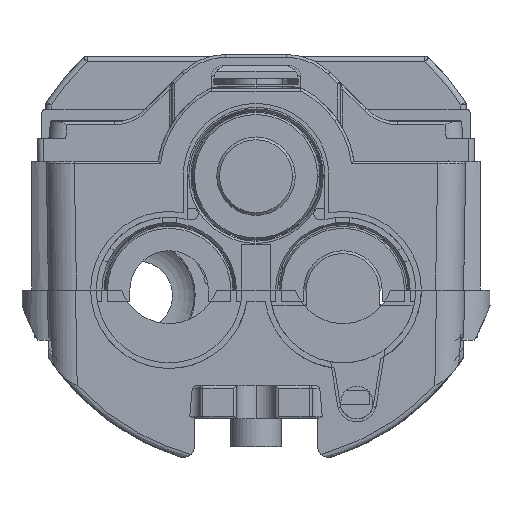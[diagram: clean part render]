
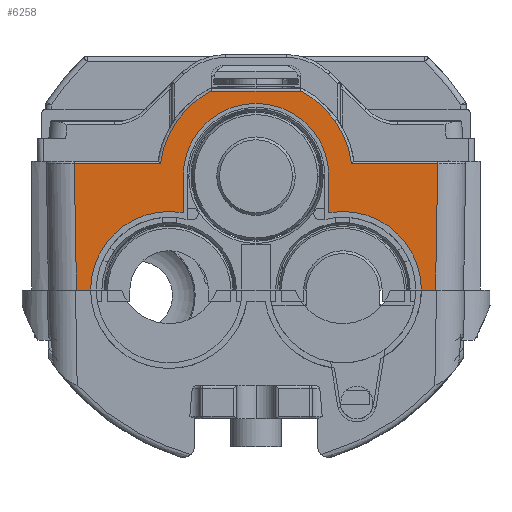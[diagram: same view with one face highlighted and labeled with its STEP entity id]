
A CAD part, left-side view. The second image highlights one B-rep face of the part: STEP entity #6258.
In plain terms, the highlighted planar face has unit normal (-1, 0, 0).
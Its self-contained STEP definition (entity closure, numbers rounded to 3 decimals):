
#220 = DIRECTION ( 'NONE',  ( -1., 0., 0. ) ) ;
#277 = CIRCLE ( 'NONE', #36907, 17.2 ) ;
#313 = CARTESIAN_POINT ( 'NONE',  ( -260., -32.74, 74.782 ) ) ;
#705 = VERTEX_POINT ( 'NONE', #13757 ) ;
#1485 = VECTOR ( 'NONE', #25919, 1000. ) ;
#2039 = VECTOR ( 'NONE', #48078, 1000. ) ;
#2564 = VECTOR ( 'NONE', #20207, 1000. ) ;
#2631 = CARTESIAN_POINT ( 'NONE',  ( -260., -32.028, 34. ) ) ;
#4360 = CARTESIAN_POINT ( 'NONE',  ( -260., 37.029, 56.5 ) ) ;
#5293 = VERTEX_POINT ( 'NONE', #25643 ) ;
#5406 = ORIENTED_EDGE ( 'NONE', *, *, #31305, .F. ) ;
#6106 = ORIENTED_EDGE ( 'NONE', *, *, #39769, .T. ) ;
#6258 = ADVANCED_FACE ( 'NONE', ( #50188 ), #19727, .F. ) ;
#6763 = ORIENTED_EDGE ( 'NONE', *, *, #35207, .F. ) ;
#7414 = ORIENTED_EDGE ( 'NONE', *, *, #35098, .T. ) ;
#7613 = CIRCLE ( 'NONE', #43755, 17.2 ) ;
#8021 = VERTEX_POINT ( 'NONE', #9060 ) ;
#9060 = CARTESIAN_POINT ( 'NONE',  ( -260., 13., 54.3 ) ) ;
#9193 = CIRCLE ( 'NONE', #14599, 14. ) ;
#9865 = CARTESIAN_POINT ( 'NONE',  ( -260., -15.5, 34. ) ) ;
#11016 = CARTESIAN_POINT ( 'NONE',  ( -260., 13., 54.3 ) ) ;
#11717 = CARTESIAN_POINT ( 'NONE',  ( -260., -13., 47.775 ) ) ;
#12398 = CARTESIAN_POINT ( 'NONE',  ( -260., -29.5, 34. ) ) ;
#12929 = LINE ( 'NONE', #4360, #1485 ) ;
#12976 = CARTESIAN_POINT ( 'NONE',  ( -260., 15.5, 34. ) ) ;
#12985 = CARTESIAN_POINT ( 'NONE',  ( -260., 29.5, 34. ) ) ;
#13757 = CARTESIAN_POINT ( 'NONE',  ( -260., 32.028, 34. ) ) ;
#14177 = DIRECTION ( 'NONE',  ( 0., -1., 0. ) ) ;
#14599 = AXIS2_PLACEMENT_3D ( 'NONE', #9865, #40204, #14177 ) ;
#15816 = CARTESIAN_POINT ( 'NONE',  ( -260., 32.762, 76.074 ) ) ;
#15913 = DIRECTION ( 'NONE',  ( 0., 0., -1. ) ) ;
#16040 = CARTESIAN_POINT ( 'NONE',  ( -260., 37.029, 56.5 ) ) ;
#16179 = ORIENTED_EDGE ( 'NONE', *, *, #16225, .T. ) ;
#16225 = EDGE_CURVE ( 'NONE', #52239, #33202, #12929, .T. ) ;
#16236 = ORIENTED_EDGE ( 'NONE', *, *, #42412, .T. ) ;
#16372 = DIRECTION ( 'NONE',  ( -1., 0., 0. ) ) ;
#17340 = DIRECTION ( 'NONE',  ( 0., -1., 0. ) ) ;
#18614 = DIRECTION ( 'NONE',  ( 0., 0., -1. ) ) ;
#18792 = DIRECTION ( 'NONE',  ( 1., 0., 0. ) ) ;
#19521 = CARTESIAN_POINT ( 'NONE',  ( -260., 37.029, 76. ) ) ;
#19548 = VECTOR ( 'NONE', #35954, 1000. ) ;
#19727 = PLANE ( 'NONE',  #49020 ) ;
#20083 = CARTESIAN_POINT ( 'NONE',  ( -260., -8.05, 69.5 ) ) ;
#20159 = CIRCLE ( 'NONE', #30826, 14. ) ;
#20207 = DIRECTION ( 'NONE',  ( 0., -0.017, -1. ) ) ;
#20576 = CARTESIAN_POINT ( 'NONE',  ( -260., 0., 54.3 ) ) ;
#20955 = CARTESIAN_POINT ( 'NONE',  ( -260., -13., 54.3 ) ) ;
#21660 = VERTEX_POINT ( 'NONE', #12985 ) ;
#22140 = CARTESIAN_POINT ( 'NONE',  ( -260., 32.421, 56.5 ) ) ;
#23307 = EDGE_CURVE ( 'NONE', #49466, #52239, #277, .T. ) ;
#23683 = ORIENTED_EDGE ( 'NONE', *, *, #40790, .T. ) ;
#24343 = ORIENTED_EDGE ( 'NONE', *, *, #27280, .F. ) ;
#24909 = DIRECTION ( 'NONE',  ( 0., -1., 0. ) ) ;
#25476 = EDGE_CURVE ( 'NONE', #705, #21660, #37956, .T. ) ;
#25533 = CARTESIAN_POINT ( 'NONE',  ( -260., -32.421, 56.5 ) ) ;
#25643 = CARTESIAN_POINT ( 'NONE',  ( -260., -17.059, 56.5 ) ) ;
#25919 = DIRECTION ( 'NONE',  ( 0., 1., 0. ) ) ;
#26083 = CARTESIAN_POINT ( 'NONE',  ( -260., 0., 54.3 ) ) ;
#26173 = DIRECTION ( 'NONE',  ( 0., -0.017, 1. ) ) ;
#26230 = VECTOR ( 'NONE', #26173, 1000. ) ;
#26247 = EDGE_CURVE ( 'NONE', #47325, #49466, #31096, .T. ) ;
#27280 = EDGE_CURVE ( 'NONE', #48383, #21660, #20159, .T. ) ;
#28157 = VECTOR ( 'NONE', #15913, 1000. ) ;
#29483 = EDGE_CURVE ( 'NONE', #8021, #48383, #49813, .T. ) ;
#29596 = LINE ( 'NONE', #16040, #38397 ) ;
#29897 = VERTEX_POINT ( 'NONE', #45619 ) ;
#30471 = DIRECTION ( 'NONE',  ( 0., 0., -1. ) ) ;
#30826 = AXIS2_PLACEMENT_3D ( 'NONE', #12976, #43344, #17340 ) ;
#31096 = LINE ( 'NONE', #31585, #19548 ) ;
#31305 = EDGE_CURVE ( 'NONE', #29897, #8021, #35483, .T. ) ;
#31585 = CARTESIAN_POINT ( 'NONE',  ( -260., 37.029, 69.5 ) ) ;
#32561 = ORIENTED_EDGE ( 'NONE', *, *, #38626, .T. ) ;
#33089 = LINE ( 'NONE', #20955, #54661 ) ;
#33202 = VERTEX_POINT ( 'NONE', #22140 ) ;
#34570 = ORIENTED_EDGE ( 'NONE', *, *, #25476, .T. ) ;
#35098 = EDGE_CURVE ( 'NONE', #33202, #705, #37154, .T. ) ;
#35207 = EDGE_CURVE ( 'NONE', #54677, #29897, #33089, .T. ) ;
#35483 = CIRCLE ( 'NONE', #46150, 13. ) ;
#35954 = DIRECTION ( 'NONE',  ( 0., 1., 0. ) ) ;
#36660 = CARTESIAN_POINT ( 'NONE',  ( -260., 13., 47.775 ) ) ;
#36886 = EDGE_CURVE ( 'NONE', #48086, #54677, #9193, .T. ) ;
#36907 = AXIS2_PLACEMENT_3D ( 'NONE', #26083, #220, #30471 ) ;
#37154 = LINE ( 'NONE', #15816, #2564 ) ;
#37807 = LINE ( 'NONE', #313, #26230 ) ;
#37893 = DIRECTION ( 'NONE',  ( 0., 1., 0. ) ) ;
#37956 = LINE ( 'NONE', #52393, #2039 ) ;
#38219 = DIRECTION ( 'NONE',  ( 0., 0., 1. ) ) ;
#38397 = VECTOR ( 'NONE', #37893, 1000. ) ;
#38626 = EDGE_CURVE ( 'NONE', #48086, #53080, #52977, .T. ) ;
#38642 = ORIENTED_EDGE ( 'NONE', *, *, #29483, .F. ) ;
#39769 = EDGE_CURVE ( 'NONE', #5293, #47325, #7613, .T. ) ;
#40204 = DIRECTION ( 'NONE',  ( -1., 0., 0. ) ) ;
#40790 = EDGE_CURVE ( 'NONE', #53080, #54813, #37807, .T. ) ;
#41410 = CARTESIAN_POINT ( 'NONE',  ( -260., 37.029, 34. ) ) ;
#42058 = ORIENTED_EDGE ( 'NONE', *, *, #26247, .T. ) ;
#42367 = CARTESIAN_POINT ( 'NONE',  ( -260., 0., 54.3 ) ) ;
#42412 = EDGE_CURVE ( 'NONE', #54813, #5293, #29596, .T. ) ;
#43344 = DIRECTION ( 'NONE',  ( -1., 0., 0. ) ) ;
#43755 = AXIS2_PLACEMENT_3D ( 'NONE', #42367, #16372, #46692 ) ;
#45619 = CARTESIAN_POINT ( 'NONE',  ( -260., -13., 54.3 ) ) ;
#45725 = DIRECTION ( 'NONE',  ( 0., -1., 0. ) ) ;
#46150 = AXIS2_PLACEMENT_3D ( 'NONE', #20576, #50846, #24909 ) ;
#46692 = DIRECTION ( 'NONE',  ( 0., 0., -1. ) ) ;
#47216 = CARTESIAN_POINT ( 'NONE',  ( -260., 8.05, 69.5 ) ) ;
#47325 = VERTEX_POINT ( 'NONE', #20083 ) ;
#48078 = DIRECTION ( 'NONE',  ( 0., -1., 0. ) ) ;
#48086 = VERTEX_POINT ( 'NONE', #12398 ) ;
#48383 = VERTEX_POINT ( 'NONE', #36660 ) ;
#49020 = AXIS2_PLACEMENT_3D ( 'NONE', #19521, #18792, #18614 ) ;
#49383 = ORIENTED_EDGE ( 'NONE', *, *, #23307, .T. ) ;
#49466 = VERTEX_POINT ( 'NONE', #47216 ) ;
#49813 = LINE ( 'NONE', #11016, #28157 ) ;
#50188 = FACE_OUTER_BOUND ( 'NONE', #53495, .T. ) ;
#50286 = VECTOR ( 'NONE', #45725, 1000. ) ;
#50846 = DIRECTION ( 'NONE',  ( -1., 0., 0. ) ) ;
#52239 = VERTEX_POINT ( 'NONE', #52273 ) ;
#52273 = CARTESIAN_POINT ( 'NONE',  ( -260., 17.059, 56.5 ) ) ;
#52393 = CARTESIAN_POINT ( 'NONE',  ( -260., 37.029, 34. ) ) ;
#52977 = LINE ( 'NONE', #41410, #50286 ) ;
#53080 = VERTEX_POINT ( 'NONE', #2631 ) ;
#53495 = EDGE_LOOP ( 'NONE', ( #49383, #16179, #7414, #34570, #24343, #38642, #5406, #6763, #54135, #32561, #23683, #16236, #6106, #42058 ) ) ;
#54135 = ORIENTED_EDGE ( 'NONE', *, *, #36886, .F. ) ;
#54661 = VECTOR ( 'NONE', #38219, 1000. ) ;
#54677 = VERTEX_POINT ( 'NONE', #11717 ) ;
#54813 = VERTEX_POINT ( 'NONE', #25533 ) ;
